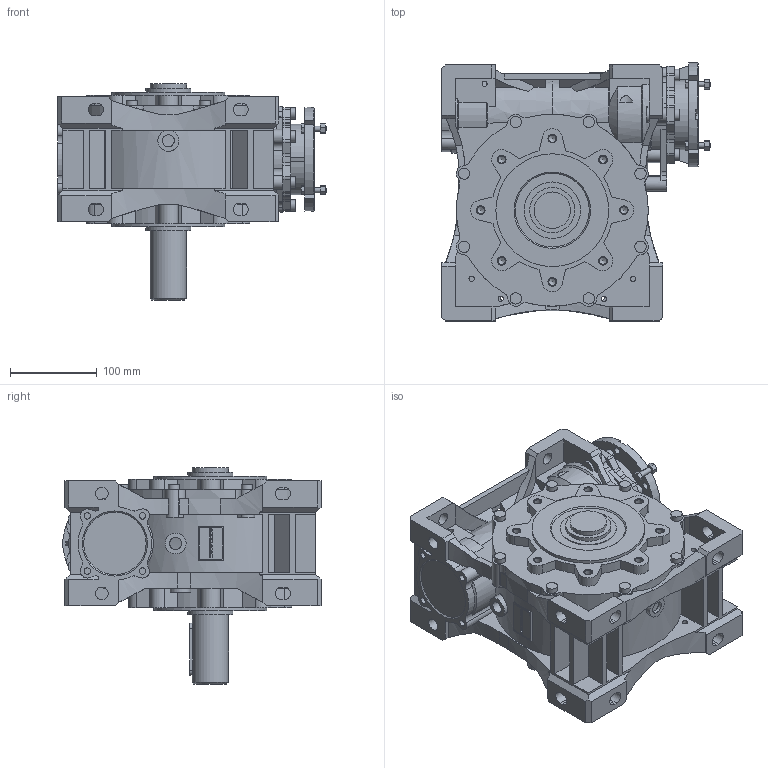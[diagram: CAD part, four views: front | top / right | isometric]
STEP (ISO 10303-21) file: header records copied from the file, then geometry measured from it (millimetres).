
FILE_DESCRIPTION(/* description */ ('STEP AP203'),/* implementation_level */ '2;1');
FILE_NAME(/* name */ 'NMRVP_110_120x19_42_NO_NO_-_-_S42_S_-_-_NO_NO_-_---_---------------',/* time_stamp */ '2025-12-03T08:38:44+01:00',/* author */ ('License CC BY-ND 4.0'),/* organization */ ('CADENAS'),/* preprocessor_version */ 'ST-DEVELOPER v20',/* originating_system */ 'PARTsolutions',/* authorisation */ ' ');
FILE_SCHEMA (('CONFIG_CONTROL_DESIGN'));
Length unit declared in the file: millimetre
Products named in the file (7): NMRVP 110 120x19 42 NO NO - - S42 S - - NO NO - ---(---------------); W.110.01.M; 110-42 (155); AL 110-42(1-2)-p; W.110.14.19.M-p; 11080 B14; 110-65
Assembly tree (6 placements, depth 2):
  NMRVP 110 120x19 42 NO NO - - S42 S - - NO NO - ---(---------------)
    W.110.01.M
    110-42 (155)
    AL 110-42(1-2)-p
    W.110.14.19.M-p
    11080 B14
    110-65
Bounding box: 309.6 x 297.3 x 249 mm (x, y, z)
Volume: 7804977.6 mm3; surface area: 706933 mm2
Topology: 6 solids, 10 shells, 1503 faces, 4042 edges, 2668 vertices
Faces by surface type: plane 772, cylinder 639, cone 88, torus 4
Full cylindrical faces by diameter (mm): 6 x18, 7.45 x12, 8.376 x16, 13 x14, 13.835 x1, 14 x8, 14.5 x2, 17 x1, 24 x2, 39 x1, 41 x1, 42 x3, 52 x2, 55 x1, 56 x1, 63 x1, 65 x3, 72.5 x1, 80 x1, 90 x3, 130 x2
Entity records: 46884 total; most frequent: CARTESIAN_POINT 8859, DIRECTION 8023, ORIENTED_EDGE 7692, EDGE_CURVE 3846, AXIS2_PLACEMENT_3D 2896, VERTEX_POINT 2638, LINE 2231, VECTOR 2231
